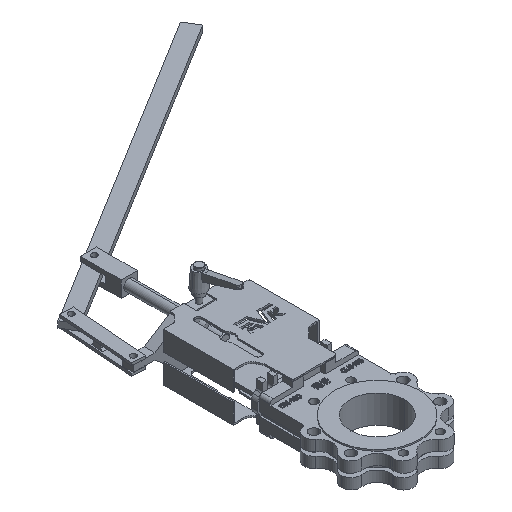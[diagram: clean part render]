
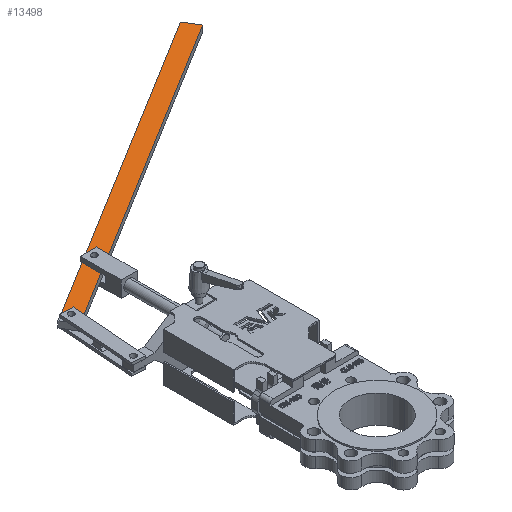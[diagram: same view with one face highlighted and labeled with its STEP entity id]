
A CAD part, isometric view. The second image highlights one B-rep face of the part: STEP entity #13498.
In plain terms, the highlighted planar face has unit normal (0, 0, 1).
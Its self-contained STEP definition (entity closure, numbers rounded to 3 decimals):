
#1289 = VERTEX_POINT ( 'NONE', #44255 ) ;
#2327 = VERTEX_POINT ( 'NONE', #8265 ) ;
#2602 = AXIS2_PLACEMENT_3D ( 'NONE', #33293, #12248, #39929 ) ;
#2721 = DIRECTION ( 'NONE',  ( 0., 0., 1. ) ) ;
#4707 = AXIS2_PLACEMENT_3D ( 'NONE', #19818, #2721, #13150 ) ;
#4972 = EDGE_CURVE ( 'NONE', #37661, #13209, #42393, .T. ) ;
#5430 = CARTESIAN_POINT ( 'NONE',  ( -115.051, 437.795, 35. ) ) ;
#5715 = EDGE_CURVE ( 'NONE', #20029, #20550, #29860, .T. ) ;
#5886 = DIRECTION ( 'NONE',  ( -0.851, -0.526, 0. ) ) ;
#6847 = EDGE_CURVE ( 'NONE', #20550, #2327, #16811, .T. ) ;
#7007 = VECTOR ( 'NONE', #31557, 1000. ) ;
#8107 = ORIENTED_EDGE ( 'NONE', *, *, #5715, .F. ) ;
#8265 = CARTESIAN_POINT ( 'NONE',  ( 480.479, 805.687, 35. ) ) ;
#8700 = VECTOR ( 'NONE', #12864, 1000. ) ;
#10575 = ORIENTED_EDGE ( 'NONE', *, *, #4972, .T. ) ;
#11553 = FACE_BOUND ( 'NONE', #44464, .T. ) ;
#12248 = DIRECTION ( 'NONE',  ( 0., 0., -1. ) ) ;
#12864 = DIRECTION ( 'NONE',  ( 0.526, -0.851, 0. ) ) ;
#13150 = DIRECTION ( 'NONE',  ( 1., 0., 0. ) ) ;
#13209 = VERTEX_POINT ( 'NONE', #22871 ) ;
#13411 = CARTESIAN_POINT ( 'NONE',  ( -123.238, 468., 35. ) ) ;
#13498 = ADVANCED_FACE ( 'NONE', ( #11553, #42477 ), #37087, .T. ) ;
#14963 = AXIS2_PLACEMENT_3D ( 'NONE', #15248, #42949, #36165 ) ;
#15248 = CARTESIAN_POINT ( 'NONE',  ( 0., 526.5, 35. ) ) ;
#16811 = LINE ( 'NONE', #22667, #8700 ) ;
#17329 = EDGE_CURVE ( 'NONE', #32565, #1289, #30832, .T. ) ;
#18188 = VECTOR ( 'NONE', #5886, 1000. ) ;
#19177 = ORIENTED_EDGE ( 'NONE', *, *, #21459, .F. ) ;
#19241 = CARTESIAN_POINT ( 'NONE',  ( 464.712, 831.21, 35. ) ) ;
#19537 = EDGE_CURVE ( 'NONE', #2327, #32565, #26289, .T. ) ;
#19818 = CARTESIAN_POINT ( 'NONE',  ( 0., 0., 35. ) ) ;
#20029 = VERTEX_POINT ( 'NONE', #13411 ) ;
#20440 = ORIENTED_EDGE ( 'NONE', *, *, #6847, .F. ) ;
#20550 = VERTEX_POINT ( 'NONE', #40132 ) ;
#21459 = EDGE_CURVE ( 'NONE', #1289, #20029, #33282, .T. ) ;
#21731 = EDGE_LOOP ( 'NONE', ( #40895, #39366, #20440, #8107, #19177 ) ) ;
#22620 = CARTESIAN_POINT ( 'NONE',  ( -123.993, 468.059, 35. ) ) ;
#22667 = CARTESIAN_POINT ( 'NONE',  ( 480.479, 805.687, 35. ) ) ;
#22871 = CARTESIAN_POINT ( 'NONE',  ( -5.25, 526.5, 35. ) ) ;
#24061 = VECTOR ( 'NONE', #25932, 1000. ) ;
#25932 = DIRECTION ( 'NONE',  ( -0.997, 0.077, 0. ) ) ;
#26289 = LINE ( 'NONE', #5430, #18188 ) ;
#26653 = ORIENTED_EDGE ( 'NONE', *, *, #41096, .T. ) ;
#27811 = CIRCLE ( 'NONE', #2602, 5.25 ) ;
#29860 = LINE ( 'NONE', #19241, #38034 ) ;
#30832 = LINE ( 'NONE', #42008, #7007 ) ;
#31557 = DIRECTION ( 'NONE',  ( 0.077, 0.997, 0. ) ) ;
#32565 = VERTEX_POINT ( 'NONE', #39599 ) ;
#33282 = LINE ( 'NONE', #22620, #24061 ) ;
#33293 = CARTESIAN_POINT ( 'NONE',  ( 0., 526.5, 35. ) ) ;
#34129 = CARTESIAN_POINT ( 'NONE',  ( 5.25, 526.5, 35. ) ) ;
#36165 = DIRECTION ( 'NONE',  ( 1., 0., 0. ) ) ;
#37087 = PLANE ( 'NONE',  #4707 ) ;
#37661 = VERTEX_POINT ( 'NONE', #34129 ) ;
#38034 = VECTOR ( 'NONE', #43459, 1000. ) ;
#39366 = ORIENTED_EDGE ( 'NONE', *, *, #19537, .F. ) ;
#39599 = CARTESIAN_POINT ( 'NONE',  ( -100.564, 446.744, 35. ) ) ;
#39929 = DIRECTION ( 'NONE',  ( 1., 0., 0. ) ) ;
#40132 = CARTESIAN_POINT ( 'NONE',  ( 464.712, 831.21, 35. ) ) ;
#40895 = ORIENTED_EDGE ( 'NONE', *, *, #17329, .F. ) ;
#41096 = EDGE_CURVE ( 'NONE', #13209, #37661, #27811, .T. ) ;
#42008 = CARTESIAN_POINT ( 'NONE',  ( -99.067, 466.134, 35. ) ) ;
#42393 = CIRCLE ( 'NONE', #14963, 5.25 ) ;
#42477 = FACE_OUTER_BOUND ( 'NONE', #21731, .T. ) ;
#42949 = DIRECTION ( 'NONE',  ( 0., 0., -1. ) ) ;
#43459 = DIRECTION ( 'NONE',  ( 0.851, 0.526, 0. ) ) ;
#44255 = CARTESIAN_POINT ( 'NONE',  ( -99.067, 466.134, 35. ) ) ;
#44464 = EDGE_LOOP ( 'NONE', ( #10575, #26653 ) ) ;
